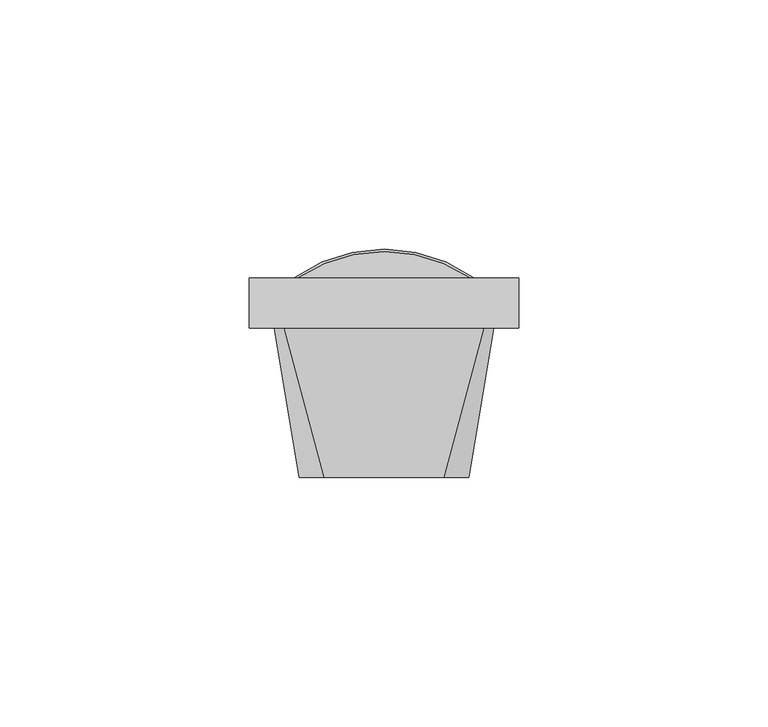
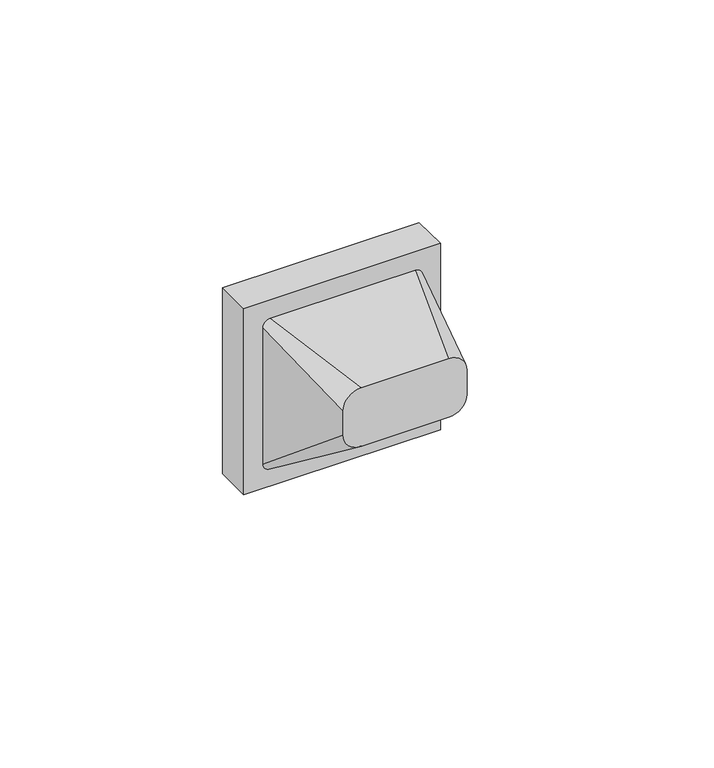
"""IFC4 building model written with IfcOpenShell, lengths in millimetres: proxy geometry, IEK_Brite_Механизм выключателя : ДД_ДС10-1-БрА."""

from ifc_helpers import new_model, si_unit, point, frame, frame_2d, origin, place, context, project, spatial, polyline, circle_curve, trimmed, segment, composite_curve, outline, extrude, source, transform, mapped, element, save
from ifc_brep_helpers import plane_surface, cylinder_surface, revolved_surface, spline_surface, advanced_brep


def electrical_fixtures_51af6a40(model_context):
    return source(origin(), model_context, "Body", "SolidModel", [
        advanced_brep(
        [(-27.0, 10.0, -27.0), (-27.0, 10.0, 27.0), (27.0, 10.0, 27.0), (27.0, 10.0, -27.0), (6.0000251, 10.0, -15.6771032), (-6.0000251, 10.0, -15.6771032), (-6.0000251, 10.0, -19.6771032), (6.0000251, 10.0, -19.6771032), (-16.2452249, 10.0, -9.0), (16.2452249, 10.0, -9.0), (16.2452249, 10.0, 9.0), (-16.2452249, 10.0, 9.0), (17.2507341, 10.0, 11.0), (-17.2507341, 10.0, 11.0), (-17.2507341, 10.0, 10.0), (17.2507341, 10.0, 10.0), (-17.2507341, 10.0, -11.0), (17.2507341, 10.0, -11.0), (17.2507341, 10.0, -10.0), (-17.2507341, 10.0, -10.0), (-27.0, 0.0, -27.0), (27.0, 0.0, -27.0), (27.0, 0.0, 27.0), (-27.0, 0.0, 27.0), (6.0000251, 2.0, -15.6771032), (6.0000251, 2.0, -19.6771032), (-6.0000251, 2.0, -19.6771032), (-6.0000251, 2.0, -15.6771032), (-6.0000251, 2.0, -16.1771032), (-6.0000251, 2.0, -19.1771032), (-2.4374749, 2.0, -19.1771032), (-2.4374749, 2.0, -16.1771032), (-10.9162542, 4.6710293, -9.0), (10.9162542, 4.6710293, -9.0), (-10.9162542, 4.6710293, 9.0), (10.9162542, 4.6710293, 9.0), (-6.0000251, 12.9624821, -16.1771032), (-2.4374749, 12.9624821, -16.1771032), (-2.4374749, 12.9624821, -19.1771032), (-6.0000251, 12.9624821, -19.1771032)],
        [
            (0, 1),
            (1, 2),
            (2, 3),
            (3, 0),
            (4, 5),
            (5, 6, circle_curve(frame((-6.0000251, 10.0, -17.6771032), z_axis=(0.0, -1.0, 0.0), x_axis=(1.0, 0.0, 0.0)), 2.0)),
            (6, 7),
            (7, 4, circle_curve(frame((6.0000251, 10.0, -17.6771032), z_axis=(0.0, -1.0, 0.0), x_axis=(1.0, 0.0, 0.0)), 2.0)),
            (8, 9),
            (9, 10),
            (10, 11),
            (11, 8),
            (12, 13),
            (13, 14),
            (14, 15),
            (15, 12),
            (16, 17),
            (17, 18),
            (18, 19),
            (19, 16),
            (20, 21),
            (21, 22),
            (22, 23),
            (23, 20),
            (3, 21),
            (20, 0),
            (2, 22),
            (1, 23),
            (24, 25, circle_curve(frame((6.0000251, 2.0, -17.6771032), z_axis=(0.0, 1.0, 0.0), x_axis=(1.0, 0.0, 0.0)), 2.0)),
            (25, 26),
            (26, 27, circle_curve(frame((-6.0000251, 2.0, -17.6771032), z_axis=(0.0, 1.0, 0.0), x_axis=(1.0, 0.0, 0.0)), 2.0)),
            (27, 24),
            (28, 29, circle_curve(frame((-6.0000251, 2.0, -17.6771032), z_axis=(0.0, -1.0, 0.0), x_axis=(1.0, 0.0, 0.0)), 1.5)),
            (29, 30),
            (30, 31, circle_curve(frame((-2.4374749, 2.0, -17.6771032), z_axis=(0.0, -1.0, 0.0), x_axis=(1.0, 0.0, 0.0)), 1.5)),
            (31, 28),
            (27, 5),
            (4, 24),
            (26, 6),
            (25, 7),
            (32, 33),
            (33, 9),
            (8, 32),
            (34, 11),
            (10, 35),
            (35, 34),
            (34, 32),
            (33, 35),
            (12, 13, circle_curve(frame((0.0, -15.3680789, 11.0), z_axis=(0.0, 0.0, 1.0), x_axis=(1.0, 0.0, 0.0)), 30.6777974)),
            (14, 15, circle_curve(frame((0.0, -15.3680789, 10.0), z_axis=(0.0, 0.0, -1.0), x_axis=(1.0, 0.0, 0.0)), 30.6777974)),
            (16, 17, circle_curve(frame((0.0, -15.3680789, -11.0), z_axis=(0.0, 0.0, -1.0), x_axis=(0.0, -1.0, 0.0)), 30.6777974)),
            (18, 19, circle_curve(frame((0.0, -15.3680789, -10.0), z_axis=(0.0, 0.0, 1.0), x_axis=(0.0, -1.0, 0.0)), 30.6777974)),
            (36, 37),
            (37, 38, circle_curve(frame((-2.4374749, 12.9624821, -17.6771032), z_axis=(0.0, 1.0, 0.0), x_axis=(1.0, 0.0, 0.0)), 1.5)),
            (38, 39),
            (39, 36, circle_curve(frame((-6.0000251, 12.9624821, -17.6771032), z_axis=(0.0, 1.0, 0.0), x_axis=(1.0, 0.0, 0.0)), 1.5)),
            (39, 29),
            (28, 36),
            (38, 30),
            (37, 31),
        ],
        [
            plane_surface(frame((27.0, 10.0, -27.0), z_axis=(0.0, 1.0, 0.0), x_axis=(-1.0, 0.0, 0.0))),
            plane_surface(frame((27.0, 0.0, -27.0), z_axis=(0.0, -1.0, 0.0), x_axis=(1.0, 0.0, 0.0))),
            plane_surface(frame((-27.0, 0.0, -27.0), z_axis=(0.0, 0.0, -1.0), x_axis=(0.0, 1.0, 0.0))),
            plane_surface(frame((27.0, 0.0, -27.0), z_axis=(1.0, 0.0, 0.0), x_axis=(0.0, 1.0, 0.0))),
            plane_surface(frame((27.0, 0.0, 27.0), z_axis=(0.0, 0.0, 1.0), x_axis=(0.0, 1.0, 0.0))),
            plane_surface(frame((-27.0, 0.0, 27.0), z_axis=(-1.0, 0.0, 0.0), x_axis=(0.0, 1.0, 0.0))),
            plane_surface(frame((-6.0000251, 2.0, -15.6771032), z_axis=(0.0, 1.0, 0.0), x_axis=(-1.0, 0.0, 0.0))),
            plane_surface(frame((6.0000251, 2.0, -15.6771032), z_axis=(0.0, 0.0, -1.0), x_axis=(0.0, 1.0, 0.0))),
            revolved_surface(polyline([(-4.0000251, 2.0, -17.6771032), (-4.0000251, 10.0, -17.6771032)]), (-6.0000251, 10.0, -17.6771032), (0.0, -1.0, 0.0)),
            plane_surface(frame((-6.0000251, 2.0, -19.6771032), z_axis=(0.0, 0.0, 1.0), x_axis=(0.0, 1.0, 0.0))),
            revolved_surface(polyline([(8.0000251, 2.0, -17.6771032), (8.0000251, 10.0, -17.6771032)]), (6.0000251, 10.0, -17.6771032), (0.0, -1.0, 0.0)),
            plane_surface(frame((-16.2452249, 10.0, -9.0), z_axis=(0.0, 0.0, 1.0), x_axis=(-0.7071067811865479, 0.7071067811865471, 0.0))),
            plane_surface(frame((-16.2452249, 10.0, 9.0), z_axis=(0.0, 0.0, -1.0), x_axis=(0.7071067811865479, -0.7071067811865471, 0.0))),
            plane_surface(frame((-10.9162542, 4.6710293, -9.0), z_axis=(0.7071067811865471, 0.7071067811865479, 0.0), x_axis=(0.0, 0.0, 1.0))),
            plane_surface(frame((16.2452249, 10.0, -9.0), z_axis=(-0.7071067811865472, 0.7071067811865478, 0.0), x_axis=(0.0, 0.0, 1.0))),
            plane_surface(frame((10.9162542, 4.6710293, -9.0), z_axis=(0.0, 1.0, 0.0), x_axis=(0.0, 0.0, 1.0))),
            plane_surface(frame((30.6777974, -15.3680789, 11.0), z_axis=(0.0, 0.0, 1.0), x_axis=(0.0, 1.0, 0.0))),
            plane_surface(frame((30.6777974, -15.3680789, 10.0), z_axis=(0.0, 0.0, -1.0), x_axis=(0.0, -1.0, 0.0))),
            cylinder_surface(frame((0.0, -15.3680789, 10.0), z_axis=(0.0, 0.0, 1.0), x_axis=(1.0, 0.0, 0.0)), 30.6777974),
            plane_surface(frame((-11.2957374, 10.0, -11.0), z_axis=(0.0, 0.0, -1.0), x_axis=(-1.0, 0.0, 0.0))),
            plane_surface(frame((-11.2957374, 10.0, -10.0), z_axis=(0.0, 0.0, 1.0), x_axis=(1.0, 0.0, 0.0))),
            cylinder_surface(frame((0.0, -15.3680789, -10.0), z_axis=(0.0, 0.0, -1.0), x_axis=(0.0, -1.0, 0.0)), 30.6777974),
            plane_surface(frame((-4.5000251, 12.9624821, -17.6771032), z_axis=(0.0, 1.0, 0.0), x_axis=(0.0, 0.0, -1.0))),
            cylinder_surface(frame((-6.0000251, 12.9624821, -17.6771032), z_axis=(0.0, -1.0, 0.0), x_axis=(1.0, 0.0, 0.0)), 1.5),
            plane_surface(frame((-6.0000251, 2.0, -19.1771032), z_axis=(0.0, 0.0, -1.0), x_axis=(0.0, 1.0, 0.0))),
            cylinder_surface(frame((-2.4374749, 12.9624821, -17.6771032), z_axis=(0.0, -1.0, 0.0), x_axis=(1.0, 0.0, 0.0)), 1.5),
            plane_surface(frame((-2.4374749, 2.0, -16.1771032), z_axis=(0.0, 0.0, 1.0), x_axis=(0.0, 1.0, 0.0))),
        ],
        [
            (0, [[1, 2, 3, 4], [5, 6, 7, 8], [9, 10, 11, 12], [13, 14, 15, 16], [17, 18, 19, 20]]),
            (1, [[21, 22, 23, 24]]),
            (2, [[-4, 25, -21, 26]]),
            (3, [[-3, 27, -22, -25]]),
            (4, [[-2, 28, -23, -27]]),
            (5, [[-1, -26, -24, -28]]),
            (6, [[29, 30, 31, 32], [33, 34, 35, 36]]),
            (7, [[-32, 37, -5, 38]]),
            (8, [[-31, 39, -6, -37]]),
            (9, [[-30, 40, -7, -39]]),
            (10, [[-29, -38, -8, -40]]),
            (11, [[41, 42, -9, 43]]),
            (12, [[44, -11, 45, 46]]),
            (13, [[-43, -12, -44, 47]]),
            (14, [[-42, 48, -45, -10]]),
            (15, [[-41, -47, -46, -48]]),
            (16, [[49, -13]]),
            (17, [[50, -15]]),
            (18, [[-49, -16, -50, -14]]),
            (19, [[51, -17]]),
            (20, [[52, -19]]),
            (21, [[-51, -20, -52, -18]]),
            (22, [[53, 54, 55, 56]]),
            (23, [[-56, 57, -33, 58]]),
            (24, [[-55, 59, -34, -57]]),
            (25, [[-54, 60, -35, -59]]),
            (26, [[-53, -58, -36, -60]]),
        ],
    ),
        extrude(outline(composite_curve([segment(polyline([(-16.2452249, 10.0), (-18.125, 10.0)]), True, "CONTINUOUS"), segment(trimmed(circle_curve(frame_2d((0.0, -15.3680789)), 31.1777974), [point((-18.125, 10.0))], [point((18.125, 10.0))], False, "CARTESIAN"), True, "CONTINUOUS"), segment(polyline([(18.125, 10.0), (16.2452249, 10.0)]), True, "CONTINUOUS"), segment(trimmed(circle_curve(frame_2d((0.0, -14.9047681)), 29.7347408), [point((16.2452249, 10.0))], [point((-16.2452249, 10.0))], True, "CARTESIAN"), True, "CONTINUOUS")], self_intersect=False)), frame((0.0, 0.0, -10.0), z_axis=(0.0, 0.0, 1.0), x_axis=(1.0, 0.0, 0.0)), (0.0, 0.0, 1.0), 20.0),
        advanced_brep(
        [(-12.0, -30.0, 17.0), (-17.0, -30.0, 12.0), (-17.0, -30.0, 5.0), (-12.0, -30.0, 0.0), (12.0, -30.0, 0.0), (17.0, -30.0, 5.0), (17.0, -30.0, 12.0), (12.0, -30.0, 17.0), (20.0, 0.0, 22.0), (22.0, 0.0, 20.0), (22.0, 0.0, -20.0), (20.0, 0.0, -22.0), (-20.0, 0.0, -22.0), (-22.0, 0.0, -20.0), (-22.0, 0.0, 20.0), (-20.0, 0.0, 22.0), (20.0, 4.4942733, -3.0892494), (-20.0, 4.4942733, -3.0892494)],
        [
            (0, 1, circle_curve(frame((-12.0, -30.0, 12.0), z_axis=(0.0, -1.0, 0.0), x_axis=(1.0, 0.0, 0.0)), 5.0)),
            (1, 2),
            (2, 3, circle_curve(frame((-12.0, -30.0, 5.0), z_axis=(0.0, -1.0, 0.0), x_axis=(1.0, 0.0, 0.0)), 5.0)),
            (3, 4),
            (4, 5, circle_curve(frame((12.0, -30.0, 5.0), z_axis=(0.0, -1.0, 0.0), x_axis=(1.0, 0.0, 0.0)), 5.0)),
            (5, 6),
            (6, 7, circle_curve(frame((12.0, -30.0, 12.0), z_axis=(0.0, -1.0, 0.0), x_axis=(1.0, 0.0, 0.0)), 5.0)),
            (7, 0),
            (8, 9, circle_curve(frame((20.0, 0.0, 20.0), z_axis=(0.0, 1.0, 0.0), x_axis=(1.0, 0.0, 0.0)), 2.0)),
            (9, 10),
            (10, 11, circle_curve(frame((20.0, 0.0, -20.0), z_axis=(0.0, 1.0, 0.0), x_axis=(1.0, 0.0, 0.0)), 2.0)),
            (11, 8),
            (12, 13, circle_curve(frame((-20.0, 0.0, -20.0), z_axis=(0.0, 1.0, 0.0), x_axis=(1.0, 0.0, 0.0)), 2.0)),
            (13, 14),
            (14, 15, circle_curve(frame((-20.0, 0.0, 20.0), z_axis=(0.0, 1.0, 0.0), x_axis=(1.0, 0.0, 0.0)), 2.0)),
            (15, 12),
            (7, 8),
            (8, 15),
            (15, 0),
            (6, 9),
            (5, 10),
            (4, 11),
            (3, 12),
            (12, 11),
            (2, 13),
            (1, 14),
            (11, 16),
            (16, 8),
            (15, 17),
            (17, 12),
            (17, 16),
        ],
        [
            plane_surface(frame((0.0, -30.0, 8.5), z_axis=(0.0, -1.0, 0.0), x_axis=(-1.0, 0.0, 0.0))),
            plane_surface(frame((0.0, 0.0, 0.0), z_axis=(0.0, 1.0, 0.0), x_axis=(-1.0, 0.0, 0.0))),
            plane_surface(frame((0.0, 0.0, 22.0), z_axis=(0.0, -0.16439898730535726, 0.9863939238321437), x_axis=(-1.0, 0.0, 0.0))),
            spline_surface(2, 1, [[(22.0, 0.0, 20.0), (17.0, -30.0, 12.0)], [(22.0, 0.0, 22.0), (17.0, -30.0, 17.0)], [(20.0, 0.0, 22.0), (12.0, -30.0, 17.0)]], [3, 3], [2, 2], [0.0, 1.0], [0.0, 1.0], weights=[[1.0, 1.0], [0.7071067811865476, 0.7071067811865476], [1.0, 1.0]]),
            plane_surface(frame((22.0, 0.0, 0.0), z_axis=(0.9863939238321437, -0.1643989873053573, 0.0), x_axis=(0.0, 0.0, 1.0))),
            spline_surface(2, 1, [[(20.0, 0.0, -22.0), (12.0, -30.0, 0.0)], [(22.0, 0.0, -22.0), (17.0, -30.0, 0.0)], [(22.0, 0.0, -20.0), (17.0, -30.0, 5.0)]], [3, 3], [2, 2], [0.0, 1.0], [0.0, 1.0], weights=[[1.0, 1.0], [0.7071067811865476, 0.7071067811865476], [1.0, 1.0]]),
            plane_surface(frame((0.0, 0.0, -22.0), z_axis=(0.0, -0.591363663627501, -0.8064049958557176), x_axis=(1.0, 0.0, 0.0))),
            spline_surface(2, 1, [[(-22.0, 0.0, -20.0), (-17.0, -30.0, 5.0)], [(-22.0, 0.0, -22.0), (-17.0, -30.0, 0.0)], [(-20.0, 0.0, -22.0), (-12.0, -30.0, 0.0)]], [3, 3], [2, 2], [0.0, 1.0], [0.0, 1.0], weights=[[1.0, 1.0], [0.7071067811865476, 0.7071067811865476], [1.0, 1.0]]),
            plane_surface(frame((-22.0, 0.0, 0.0), z_axis=(-0.9863939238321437, -0.1643989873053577, 0.0), x_axis=(0.0, 0.0, -1.0))),
            spline_surface(2, 1, [[(-20.0, 0.0, 22.0), (-12.0, -30.0, 17.0)], [(-22.0, 0.0, 22.0), (-17.0, -30.0, 17.0)], [(-22.0, 0.0, 20.0), (-17.0, -30.0, 12.0)]], [3, 3], [2, 2], [0.0, 1.0], [0.0, 1.0], weights=[[1.0, 1.0], [0.7071067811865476, 0.7071067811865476], [1.0, 1.0]]),
            plane_surface(frame((20.0, 0.0, -22.0), z_axis=(1.0, 0.0, 0.0), x_axis=(0.0, 0.23121707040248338, 0.9729021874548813))),
            plane_surface(frame((-20.0, 0.0, -22.0), z_axis=(-1.0, 0.0, 0.0), x_axis=(0.0, -0.23121707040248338, -0.9729021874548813))),
            plane_surface(frame((20.0, 0.0, -22.0), z_axis=(0.0, 0.9729021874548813, -0.23121707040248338), x_axis=(-1.0, 0.0, 0.0))),
            plane_surface(frame((20.0, 4.4942733, -3.0892494), z_axis=(0.0, 0.9843320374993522, 0.17632481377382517), x_axis=(-1.0, 0.0, 0.0))),
        ],
        [
            (0, [[1, 2, 3, 4, 5, 6, 7, 8]]),
            (1, [[9, 10, 11, 12]]),
            (1, [[13, 14, 15, 16]]),
            (2, [[-8, 17, 18, 19]]),
            (3, [[-7, 20, -9, -17]]),
            (4, [[-6, 21, -10, -20]]),
            (5, [[-5, 22, -11, -21]]),
            (6, [[-4, 23, 24, -22]]),
            (7, [[-3, 25, -13, -23]]),
            (8, [[-2, 26, -14, -25]]),
            (9, [[-1, -19, -15, -26]]),
            (10, [[27, 28, -12]]),
            (11, [[29, 30, -16]]),
            (12, [[-27, -24, -30, 31]]),
            (13, [[-28, -31, -29, -18]]),
        ],
    ),
    ])


if __name__ == "__main__":
    model = new_model("IFC4")
    model_context = context("Model", 3, world=origin())
    ifc_project = project(units=[si_unit("LENGTHUNIT", "METRE", prefix="MILLI")], contexts=[model_context])
    site = spatial("IfcSite", under=ifc_project)
    building = spatial("IfcBuilding", under=site)
    placement = place(None, origin())
    electrical_fixtures_shape = electrical_fixtures_51af6a40(model_context)
    element("IfcBuildingElementProxy", 1, Name="IEK_Brite_Механизм выключателя : ДД_ДС10-1-БрА", ObjectType="IEK_Brite_Механизм выключателя : ДД_ДС10-1-БрА", at=placement, inside=building, context=model_context, shape_type="MappedRepresentation", body=[
        mapped(electrical_fixtures_shape, transform((0.0, 0.0, 0.0), x_axis=(1.0, 0.0, 0.0), y_axis=(0.0, 1.0, 0.0), z_axis=(0.0, 0.0, 1.0))),
    ])
    save(model, "model.ifc")
